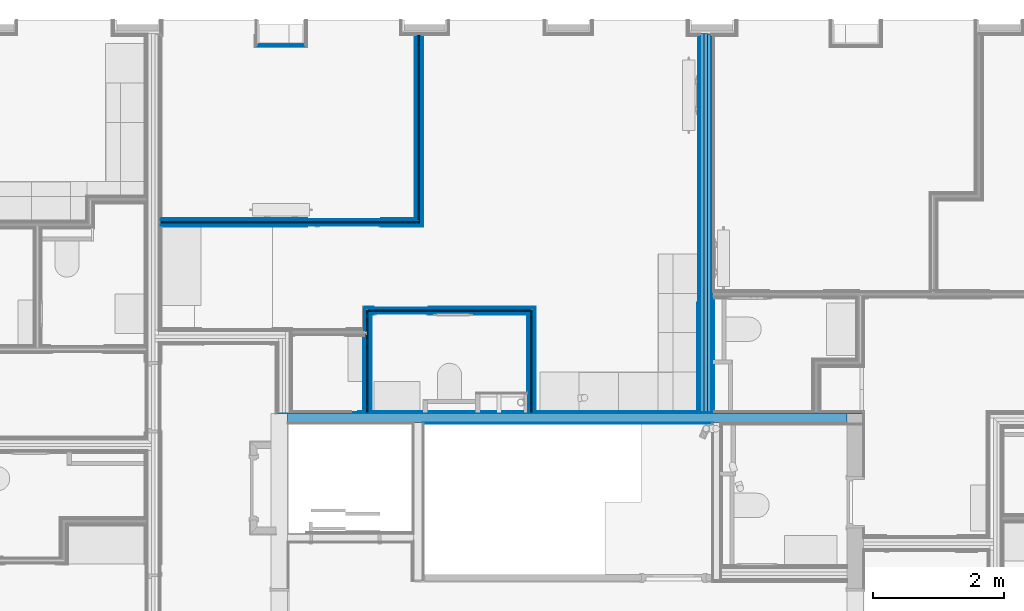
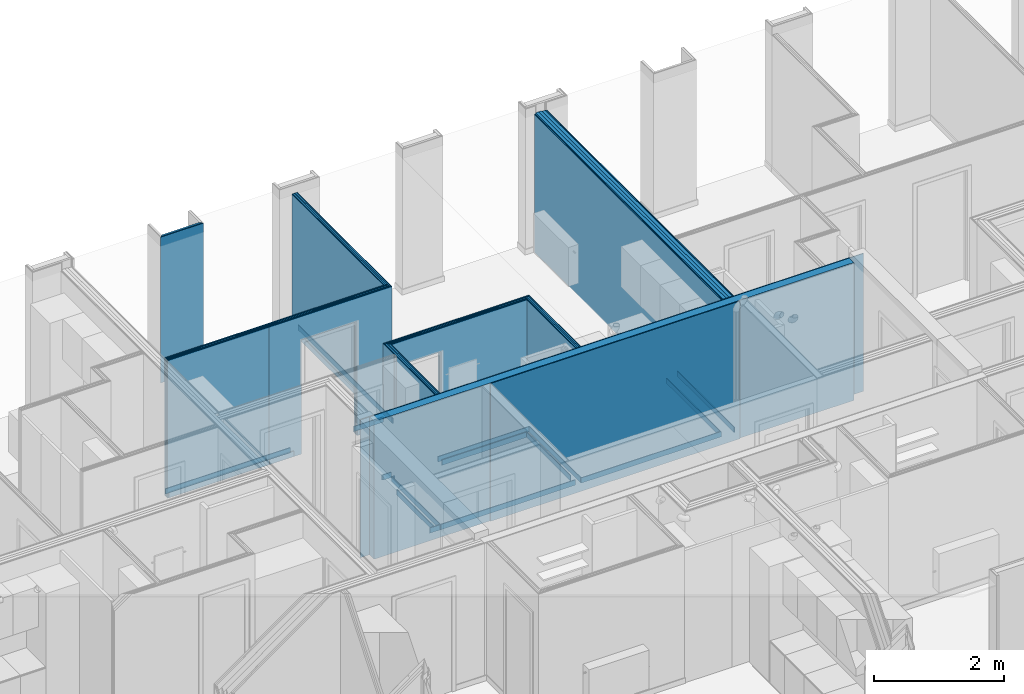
# One storey, part 17 of 82: 59 building element parts, 2 openings, 9 elements without a shape of their own.
"""IFC2X3 building model written with IfcOpenShell, lengths in metres."""

from ifc_helpers import new_model, entity, si_unit, converted_unit, derived_unit, money_unit, direction, frame, frame_2d, origin_with_axes, place, context, subcontext, project, spatial, polyline, rectangle, outline, extrude, material, type_object, element, aggregate, save


model = new_model("IFC2X3")

# Units and contexts
model_context = context("Model", 3, precision=1e-05, world=origin_with_axes(), true_north=direction((0.0, 1.0)))
body_context = subcontext(model_context, "Body", "Model", "MODEL_VIEW", scale=1.0)
ifc_project = project(units=[si_unit("LENGTHUNIT", "METRE"), si_unit("AREAUNIT", "SQUARE_METRE"), si_unit("VOLUMEUNIT", "CUBIC_METRE"), si_unit("ABSORBEDDOSEUNIT", "GRAY"), si_unit("AMOUNTOFSUBSTANCEUNIT", "MOLE"), si_unit("DOSEEQUIVALENTUNIT", "SIEVERT"), si_unit("ELECTRICCAPACITANCEUNIT", "FARAD"), si_unit("ELECTRICCHARGEUNIT", "COULOMB"), si_unit("ELECTRICCONDUCTANCEUNIT", "SIEMENS"), si_unit("ELECTRICCURRENTUNIT", "AMPERE"), si_unit("ELECTRICRESISTANCEUNIT", "OHM"), si_unit("ELECTRICVOLTAGEUNIT", "VOLT"), si_unit("ENERGYUNIT", "JOULE"), si_unit("FORCEUNIT", "NEWTON"), si_unit("FREQUENCYUNIT", "HERTZ"), si_unit("ILLUMINANCEUNIT", "LUX"), si_unit("INDUCTANCEUNIT", "HENRY"), si_unit("LUMINOUSFLUXUNIT", "LUMEN"), si_unit("LUMINOUSINTENSITYUNIT", "CANDELA"), si_unit("MAGNETICFLUXDENSITYUNIT", "TESLA"), si_unit("MAGNETICFLUXUNIT", "WEBER"), si_unit("MASSUNIT", "GRAM"), converted_unit("PLANEANGLEUNIT", "degree", entity("IfcReal", 0.0174532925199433), si_unit("PLANEANGLEUNIT", "RADIAN"), dimensions=[0, 0, 0, 0, 0, 0, 0]), si_unit("POWERUNIT", "WATT"), si_unit("PRESSUREUNIT", "PASCAL"), si_unit("RADIOACTIVITYUNIT", "BECQUEREL"), si_unit("SOLIDANGLEUNIT", "STERADIAN"), si_unit("THERMODYNAMICTEMPERATUREUNIT", "KELVIN"), si_unit("TIMEUNIT", "SECOND"), derived_unit("ACCELERATIONUNIT", [(si_unit("LENGTHUNIT", "METRE"), 1), (si_unit("TIMEUNIT", "SECOND"), -2)]), derived_unit("ANGULARVELOCITYUNIT", [(converted_unit("PLANEANGLEUNIT", "degree", entity("IfcReal", 0.0174532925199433), si_unit("PLANEANGLEUNIT", "RADIAN"), dimensions=[0, 0, 0, 0, 0, 0, 0]), 1), (si_unit("TIMEUNIT", "SECOND"), -1)]), derived_unit("CURVATUREUNIT", [(converted_unit("PLANEANGLEUNIT", "degree", entity("IfcReal", 0.0174532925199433), si_unit("PLANEANGLEUNIT", "RADIAN"), dimensions=[0, 0, 0, 0, 0, 0, 0]), 1), (si_unit("LENGTHUNIT", "METRE"), -1)]), derived_unit("DYNAMICVISCOSITYUNIT", [(si_unit("PRESSUREUNIT", "PASCAL"), 1), (si_unit("TIMEUNIT", "SECOND"), 1)]), derived_unit("HEATFLUXDENSITYUNIT", [(si_unit("POWERUNIT", "WATT"), 1), (si_unit("LENGTHUNIT", "METRE"), -2)]), derived_unit("HEATINGVALUEUNIT", [(si_unit("ENERGYUNIT", "JOULE"), 1), (si_unit("MASSUNIT", "GRAM"), -1)]), derived_unit("INTEGERCOUNTRATEUNIT", [(si_unit("TIMEUNIT", "SECOND"), -1)]), derived_unit("IONCONCENTRATIONUNIT", [(si_unit("MASSUNIT", "GRAM"), 1), (si_unit("VOLUMEUNIT", "CUBIC_METRE"), -1)]), derived_unit("ISOTHERMALMOISTURECAPACITYUNIT", [(si_unit("VOLUMEUNIT", "CUBIC_METRE"), 1), (si_unit("MASSUNIT", "GRAM"), -1)]), derived_unit("KINEMATICVISCOSITYUNIT", [(si_unit("AREAUNIT", "SQUARE_METRE"), 1), (si_unit("TIMEUNIT", "SECOND"), -1)]), derived_unit("LINEARFORCEUNIT", [(si_unit("FORCEUNIT", "NEWTON"), 1), (si_unit("LENGTHUNIT", "METRE"), -1)]), derived_unit("LINEARMOMENTUNIT", [(si_unit("FORCEUNIT", "NEWTON"), 1), (si_unit("LENGTHUNIT", "METRE"), -1)]), derived_unit("LINEARSTIFFNESSUNIT", [(si_unit("FORCEUNIT", "NEWTON"), 1), (si_unit("LENGTHUNIT", "METRE"), -1)]), derived_unit("LINEARVELOCITYUNIT", [(si_unit("LENGTHUNIT", "METRE"), 1), (si_unit("TIMEUNIT", "SECOND"), -1)]), derived_unit("LUMINOUSINTENSITYDISTRIBUTIONUNIT", [(si_unit("LUMINOUSINTENSITYUNIT", "CANDELA"), 1), (si_unit("LUMINOUSFLUXUNIT", "LUMEN"), -1)]), derived_unit("MASSDENSITYUNIT", [(si_unit("MASSUNIT", "GRAM"), 1), (si_unit("VOLUMEUNIT", "CUBIC_METRE"), -1)]), derived_unit("MASSFLOWRATEUNIT", [(si_unit("MASSUNIT", "GRAM"), 1), (si_unit("TIMEUNIT", "SECOND"), -1)]), derived_unit("MASSPERLENGTHUNIT", [(si_unit("MASSUNIT", "GRAM"), 1), (si_unit("LENGTHUNIT", "METRE"), -1)]), derived_unit("MODULUSOFELASTICITYUNIT", [(si_unit("FORCEUNIT", "NEWTON"), 1), (si_unit("AREAUNIT", "SQUARE_METRE"), -1)]), derived_unit("MODULUSOFLINEARSUBGRADEREACTIONUNIT", [(si_unit("FORCEUNIT", "NEWTON"), 1), (si_unit("LENGTHUNIT", "METRE"), -2)]), derived_unit("MODULUSOFROTATIONALSUBGRADEREACTIONUNIT", [(si_unit("FORCEUNIT", "NEWTON"), 1), (si_unit("LENGTHUNIT", "METRE"), 1)]), derived_unit("MODULUSOFSUBGRADEREACTIONUNIT", [(si_unit("FORCEUNIT", "NEWTON"), 1), (si_unit("VOLUMEUNIT", "CUBIC_METRE"), -1)]), derived_unit("MOISTUREDIFFUSIVITYUNIT", [(si_unit("VOLUMEUNIT", "CUBIC_METRE"), 1), (si_unit("TIMEUNIT", "SECOND"), -1)]), derived_unit("MOLECULARWEIGHTUNIT", [(si_unit("MASSUNIT", "GRAM"), 1), (si_unit("AMOUNTOFSUBSTANCEUNIT", "MOLE"), -1)]), derived_unit("PLANARFORCEUNIT", [(si_unit("FORCEUNIT", "NEWTON"), 1), (si_unit("LENGTHUNIT", "METRE"), -2)]), derived_unit("ROTATIONALFREQUENCYUNIT", [(si_unit("TIMEUNIT", "SECOND"), -1)]), derived_unit("ROTATIONALMASSUNIT", [(si_unit("MASSUNIT", "GRAM"), 1), (si_unit("LENGTHUNIT", "METRE"), 2)]), derived_unit("ROTATIONALSTIFFNESSUNIT", [(si_unit("FORCEUNIT", "NEWTON"), 1), (si_unit("LENGTHUNIT", "METRE"), 1), (converted_unit("PLANEANGLEUNIT", "degree", entity("IfcReal", 0.0174532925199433), si_unit("PLANEANGLEUNIT", "RADIAN"), dimensions=[0, 0, 0, 0, 0, 0, 0]), -1)]), derived_unit("SECTIONAREAINTEGRALUNIT", [(si_unit("LENGTHUNIT", "METRE"), 5)]), derived_unit("SECTIONMODULUSUNIT", [(si_unit("LENGTHUNIT", "METRE"), 3)]), derived_unit("SHEARMODULUSUNIT", [(si_unit("FORCEUNIT", "NEWTON"), 1), (si_unit("AREAUNIT", "SQUARE_METRE"), -1)]), derived_unit("SOUNDPOWERUNIT", [(si_unit("ENERGYUNIT", "JOULE"), 1), (si_unit("TIMEUNIT", "SECOND"), -1)]), derived_unit("SPECIFICHEATCAPACITYUNIT", [(si_unit("FORCEUNIT", "NEWTON"), 1), (si_unit("MASSUNIT", "GRAM"), -1), (si_unit("THERMODYNAMICTEMPERATUREUNIT", "KELVIN"), -1)]), derived_unit("TEMPERATUREGRADIENTUNIT", [(si_unit("THERMODYNAMICTEMPERATUREUNIT", "KELVIN"), 1), (si_unit("LENGTHUNIT", "METRE"), -1)]), derived_unit("THERMALADMITTANCEUNIT", [(si_unit("POWERUNIT", "WATT"), 1), (si_unit("AREAUNIT", "SQUARE_METRE"), -1), (si_unit("THERMODYNAMICTEMPERATUREUNIT", "KELVIN"), -1)]), derived_unit("THERMALCONDUCTANCEUNIT", [(si_unit("POWERUNIT", "WATT"), 1), (si_unit("LENGTHUNIT", "METRE"), -1), (si_unit("THERMODYNAMICTEMPERATUREUNIT", "KELVIN"), -1)]), derived_unit("THERMALEXPANSIONCOEFFICIENTUNIT", [(si_unit("THERMODYNAMICTEMPERATUREUNIT", "KELVIN"), -1)]), derived_unit("THERMALRESISTANCEUNIT", [(si_unit("AREAUNIT", "SQUARE_METRE"), 1), (si_unit("POWERUNIT", "WATT"), -1)]), derived_unit("THERMALTRANSMITTANCEUNIT", [(si_unit("POWERUNIT", "WATT"), 1), (si_unit("AREAUNIT", "SQUARE_METRE"), -1), (si_unit("THERMODYNAMICTEMPERATUREUNIT", "KELVIN"), -1)]), derived_unit("TORQUEUNIT", [(si_unit("FORCEUNIT", "NEWTON"), 1), (si_unit("LENGTHUNIT", "METRE"), 1)]), derived_unit("VAPORPERMEABILITYUNIT", [(si_unit("MASSUNIT", "GRAM"), 1), (si_unit("TIMEUNIT", "SECOND"), -1)]), derived_unit("VOLUMETRICFLOWRATEUNIT", [(si_unit("VOLUMEUNIT", "CUBIC_METRE"), 1), (si_unit("TIMEUNIT", "SECOND"), -1)]), derived_unit("WARPINGCONSTANTUNIT", [(si_unit("LENGTHUNIT", "METRE"), 6)]), derived_unit("WARPINGMOMENTUNIT", [(si_unit("FORCEUNIT", "NEWTON"), 1), (si_unit("LENGTHUNIT", "METRE"), 2)]), money_unit("GBP")], contexts=[model_context])

# Site, building, storey
site_placement = place(None, origin_with_axes())
site = spatial("IfcSite", under=ifc_project, at=site_placement, Name="Site", CompositionType="ELEMENT")
building_placement = place(site_placement, origin_with_axes())
building = spatial("IfcBuilding", under=site, at=building_placement, Name="Building01", CompositionType="ELEMENT")
storey_placement = place(building_placement, frame((0.0, 0.0, 12.13), z_axis=(0.0, 0.0, 1.0), x_axis=(1.0, 0.0, 0.0)))
storey = spatial("IfcBuildingStorey", under=building, at=storey_placement, Name="3F", CompositionType="ELEMENT", Elevation=12.13)

# Wall, building element parts
wall_type_1 = type_object("IfcWallType", Name="SHE_A-Walls_Type06d_ExternalWallInsulation_48mm", PredefinedType="NOTDEFINED")
wall_1_placement = place(storey_placement, frame((9.46, 14.45, 0.0), z_axis=(0.0, 0.0, 1.0), x_axis=(-1.0, 0.0, 0.0)))
wall_1 = element("IfcWall", 1, at=wall_1_placement, inside=storey, type_object=wall_type_1, Name="6D", ObjectType="SHE_A-Walls_Type06d_ExternalWallInsulation_48mm")
ifc_material_1 = material(Name="A_BSUK_Insulation")
placement_1 = place(wall_1_placement, origin_with_axes())
building_element_part_1 = element("IfcBuildingElementPart", 2, at=placement_1, material=ifc_material_1, Name="1", context=body_context, shape_type="SweptSolid", body=[
    extrude(outline(polyline([(0.706, 0.036), (-0.036, 0.036), (0.0, 0.0), (0.67, 0.0), (0.706, 0.036)])), origin_with_axes(), (0.0, 0.0, 1.0), 2.74),
])
ifc_material_2 = material(Name="A_BSUK_WallInternal_Finishes_Plasterboard")
building_element_part_2 = element("IfcBuildingElementPart", 3, at=placement_1, material=ifc_material_2, Name="2", context=body_context, shape_type="SweptSolid", body=[
    extrude(outline(polyline([(0.718, 0.048), (-0.048, 0.048), (-0.035, 0.035), (0.705, 0.035), (0.718, 0.048)])), origin_with_axes(), (0.0, 0.0, 1.0), 2.74),
])
aggregate(wall_1, [building_element_part_1, building_element_part_2])

# Wall, opening, building element parts
wall_type_2 = type_object("IfcWallType", Name="SHE_A-Walls_Type05a_Partition_95mm_tall", PredefinedType="NOTDEFINED")
wall_2_placement = place(storey_placement, frame((10.453871, 10.355, 0.0), z_axis=(0.0, 0.0, 1.0), x_axis=(1.0, 0.0, 0.0)))
wall_2 = element("IfcWall", 4, at=wall_2_placement, inside=storey, type_object=wall_type_2, Name="5A", ObjectType="SHE_A-Walls_Type05a_Partition_95mm_tall")
opening_1_placement = place(wall_2_placement, frame((0.086065, -0.05, 0.0), z_axis=(0.0, 0.0, 1.0), x_axis=(1.0, 0.0, 0.0)))
element("IfcOpeningElement", 5, at=opening_1_placement, cuts=wall_2, Name="Opening", ObjectType="Opening", context=body_context, shape_type="SweptSolid", body=[
    extrude(rectangle(XDim=0.834, YDim=2.142, at=frame_2d((-0.417, 1.071), x_axis=(1.0, 0.0))), frame((0.0, 0.0, 0.0), z_axis=(0.0, 1.0, 0.0), x_axis=(-1.0, 0.0, 0.0)), (0.0, 0.0, 1.0), 0.125),
])
ifc_material_3 = material(Name="A_BSUK_Walls_Timber")
placement_2 = place(wall_2_placement, origin_with_axes())
building_element_part_3 = element("IfcBuildingElementPart", 6, at=placement_2, material=ifc_material_3, Name="1", context=body_context, shape_type="SweptSolid", body=[
    extrude(outline(polyline([(2.439714, -0.035), (0.035, -0.035), (0.05, -0.05), (2.424714, -0.05), (2.439714, -0.035)])), frame((0.0, 0.0, 0.015), z_axis=(0.0, 0.0, 1.0), x_axis=(1.0, 0.0, 0.0)), (0.0, 0.0, 1.0), 0.1),
])
building_element_part_4 = element("IfcBuildingElementPart", 7, at=placement_2, material=ifc_material_2, Name="2", context=body_context, shape_type="SweptSolid", body=[
    extrude(outline(polyline([(2.451714, -0.023), (0.023, -0.023), (0.035, -0.035), (2.439714, -0.035), (2.451714, -0.023)])), origin_with_axes(), (0.0, 0.0, 1.0), 2.59),
])
ifc_material_4 = material(Name="Air Cavity")
building_element_part_5 = element("IfcBuildingElementPart", 8, at=placement_2, material=ifc_material_4, Name="3", context=body_context, shape_type="SweptSolid", body=[
    extrude(outline(polyline([(2.474714, 0.0), (0.0, 0.0), (0.023, -0.023), (2.451714, -0.023), (2.474714, 0.0)])), origin_with_axes(), (0.0, 0.0, 1.0), 2.59),
])
building_element_part_6 = element("IfcBuildingElementPart", 9, at=placement_2, material=ifc_material_1, Name="4", context=body_context, shape_type="SweptSolid", body=[
    extrude(rectangle(XDim=2.474714, YDim=0.025, at=frame_2d((1.237357, 0.0125), x_axis=(-1.0, 0.0))), origin_with_axes(), (0.0, 0.0, 1.0), 2.59),
])
building_element_part_7 = element("IfcBuildingElementPart", 10, at=placement_2, material=ifc_material_4, Name="5", context=body_context, shape_type="SweptSolid", body=[
    extrude(rectangle(XDim=2.474714, YDim=0.023, at=frame_2d((1.237357, 0.0365), x_axis=(-1.0, 0.0))), origin_with_axes(), (0.0, 0.0, 1.0), 2.59),
])
building_element_part_8 = element("IfcBuildingElementPart", 11, at=placement_2, material=ifc_material_2, Name="6", context=body_context, shape_type="SweptSolid", body=[
    extrude(outline(polyline([(2.534714, 0.06), (-0.06, 0.06), (-0.048, 0.048), (2.522714, 0.048), (2.534714, 0.06)])), origin_with_axes(), (0.0, 0.0, 1.0), 2.59),
])
building_element_part_9 = element("IfcBuildingElementPart", 12, at=placement_2, material=ifc_material_3, Name="7", context=body_context, shape_type="SweptSolid", body=[
    extrude(outline(polyline([(2.549714, 0.075), (-0.075, 0.075), (-0.06, 0.06), (2.534714, 0.06), (2.549714, 0.075)])), frame((0.0, 0.0, 0.015), z_axis=(0.0, 0.0, 1.0), x_axis=(1.0, 0.0, 0.0)), (0.0, 0.0, 1.0), 0.1),
])
aggregate(wall_2, [building_element_part_3, building_element_part_4, building_element_part_5, building_element_part_6, building_element_part_7, building_element_part_8, building_element_part_9])

# Wall, building element parts
wall_3_placement = place(storey_placement, frame((12.928585, 10.38, 0.0), z_axis=(0.0, 0.0, 1.0), x_axis=(0.0, -1.0, 0.0)))
wall_3 = element("IfcWall", 13, at=wall_3_placement, inside=storey, type_object=wall_type_2, Name="5A", ObjectType="SHE_A-Walls_Type05a_Partition_95mm_tall")
placement_3 = place(wall_3_placement, origin_with_axes())
building_element_part_10 = element("IfcBuildingElementPart", 14, at=placement_3, material=ifc_material_3, Name="1", context=body_context, shape_type="SweptSolid", body=[
    extrude(outline(polyline([(1.426872, -0.035), (0.06, -0.035), (0.075, -0.05), (1.426872, -0.05), (1.426872, -0.035)])), frame((0.0, 0.0, 0.015), z_axis=(0.0, 0.0, 1.0), x_axis=(1.0, 0.0, 0.0)), (0.0, 0.0, 1.0), 0.1),
])
building_element_part_11 = element("IfcBuildingElementPart", 15, at=placement_3, material=ifc_material_2, Name="2", context=body_context, shape_type="SweptSolid", body=[
    extrude(outline(polyline([(1.56, -0.023), (0.048, -0.023), (0.06, -0.035), (1.56, -0.035), (1.56, -0.023)])), origin_with_axes(), (0.0, 0.0, 1.0), 2.59),
])
building_element_part_12 = element("IfcBuildingElementPart", 16, at=placement_3, material=ifc_material_4, Name="3", context=body_context, shape_type="SweptSolid", body=[
    extrude(outline(polyline([(1.56, 0.0), (0.025, 0.0), (0.048, -0.023), (1.56, -0.023), (1.56, 0.0)])), origin_with_axes(), (0.0, 0.0, 1.0), 2.59),
])
building_element_part_13 = element("IfcBuildingElementPart", 17, at=placement_3, material=ifc_material_1, Name="4", context=body_context, shape_type="SweptSolid", body=[
    extrude(rectangle(XDim=1.56, YDim=0.025, at=frame_2d((0.78, 0.0125), x_axis=(-1.0, 0.0))), origin_with_axes(), (0.0, 0.0, 1.0), 2.59),
])
building_element_part_14 = element("IfcBuildingElementPart", 18, at=placement_3, material=ifc_material_4, Name="5", context=body_context, shape_type="SweptSolid", body=[
    extrude(rectangle(XDim=1.56, YDim=0.023, at=frame_2d((0.78, 0.0365), x_axis=(-1.0, 0.0))), origin_with_axes(), (0.0, 0.0, 1.0), 2.59),
])
building_element_part_15 = element("IfcBuildingElementPart", 19, at=placement_3, material=ifc_material_2, Name="6", context=body_context, shape_type="SweptSolid", body=[
    extrude(outline(polyline([(1.56, 0.06), (-0.035, 0.06), (-0.023, 0.048), (1.56, 0.048), (1.56, 0.06)])), origin_with_axes(), (0.0, 0.0, 1.0), 2.59),
])
building_element_part_16 = element("IfcBuildingElementPart", 20, at=placement_3, material=ifc_material_3, Name="7", context=body_context, shape_type="SweptSolid", body=[
    extrude(outline(polyline([(1.545, 0.075), (-0.05, 0.075), (-0.035, 0.06), (1.545, 0.06), (1.545, 0.075)])), frame((0.0, 0.0, 0.015), z_axis=(0.0, 0.0, 1.0), x_axis=(1.0, 0.0, 0.0)), (0.0, 0.0, 1.0), 0.1),
])
aggregate(wall_3, [building_element_part_10, building_element_part_11, building_element_part_12, building_element_part_13, building_element_part_14, building_element_part_15, building_element_part_16])

wall_type_3 = type_object("IfcWallType", Name="SHE_A-Walls_Type01c_Partywall_225mm_twin_tall", PredefinedType="NOTDEFINED")
wall_4_placement = place(storey_placement, frame((15.620132, 8.82, 0.0), z_axis=(0.0, 0.0, 1.0), x_axis=(0.0, 1.0, 0.0)))
wall_4 = element("IfcWall", 21, at=wall_4_placement, inside=storey, type_object=wall_type_3, Name="1C", ObjectType="SHE_A-Walls_Type01c_Partywall_225mm_twin_tall")
placement_4 = place(wall_4_placement, origin_with_axes())
building_element_part_17 = element("IfcBuildingElementPart", 22, at=placement_4, material=ifc_material_3, Name="1", context=body_context, shape_type="SweptSolid", body=[
    extrude(rectangle(XDim=1.75, YDim=0.015, at=frame_2d((0.875, -0.0955), x_axis=(-1.0, 0.0))), frame((0.0, 0.0, 0.015), z_axis=(0.0, 0.0, 1.0), x_axis=(1.0, 0.0, 0.0)), (0.0, 0.0, 1.0), 0.1),
])
building_element_part_18 = element("IfcBuildingElementPart", 23, at=placement_4, material=ifc_material_2, Name="3", context=body_context, shape_type="SweptSolid", body=[
    extrude(rectangle(XDim=5.747, YDim=0.015, at=frame_2d((2.8735, -0.0805), x_axis=(-1.0, 0.0))), origin_with_axes(), (0.0, 0.0, 1.0), 2.59),
])
building_element_part_19 = element("IfcBuildingElementPart", 24, at=placement_4, material=ifc_material_2, Name="4", context=body_context, shape_type="SweptSolid", body=[
    extrude(rectangle(XDim=5.762, YDim=0.015, at=frame_2d((2.881, -0.0655), x_axis=(-1.0, 0.0))), origin_with_axes(), (0.0, 0.0, 1.0), 2.59),
])
building_element_part_20 = element("IfcBuildingElementPart", 25, at=placement_4, material=ifc_material_4, Name="5", context=body_context, shape_type="SweptSolid", body=[
    extrude(rectangle(XDim=5.762, YDim=0.058, at=frame_2d((2.881, -0.029), x_axis=(-1.0, 0.0))), origin_with_axes(), (0.0, 0.0, 1.0), 2.59),
])
building_element_part_21 = element("IfcBuildingElementPart", 26, at=placement_4, material=ifc_material_1, Name="6", context=body_context, shape_type="SweptSolid", body=[
    extrude(rectangle(XDim=5.774, YDim=0.05, at=frame_2d((2.887, 0.025), x_axis=(-1.0, 0.0))), origin_with_axes(), (0.0, 0.0, 1.0), 2.59),
])
building_element_part_22 = element("IfcBuildingElementPart", 27, at=placement_4, material=ifc_material_4, Name="7", context=body_context, shape_type="SweptSolid", body=[
    extrude(rectangle(XDim=5.774, YDim=0.057, at=frame_2d((2.887, 0.0785), x_axis=(-1.0, 0.0))), origin_with_axes(), (0.0, 0.0, 1.0), 2.59),
])
building_element_part_23 = element("IfcBuildingElementPart", 28, at=placement_4, material=ifc_material_2, Name="8", context=body_context, shape_type="SweptSolid", body=[
    extrude(rectangle(XDim=5.762, YDim=0.015, at=frame_2d((2.881, 0.1145), x_axis=(-1.0, 0.0))), origin_with_axes(), (0.0, 0.0, 1.0), 2.59),
])
building_element_part_24 = element("IfcBuildingElementPart", 29, at=placement_4, material=ifc_material_2, Name="9", context=body_context, shape_type="SweptSolid", body=[
    extrude(rectangle(XDim=5.747, YDim=0.015, at=frame_2d((2.8735, 0.1295), x_axis=(-1.0, 0.0))), origin_with_axes(), (0.0, 0.0, 1.0), 2.59),
])
building_element_part_25 = element("IfcBuildingElementPart", 30, at=placement_4, material=ifc_material_3, Name="10", context=body_context, shape_type="SweptSolid", body=[
    extrude(outline(polyline([(1.671912, 0.152), (0.015, 0.152), (0.015, 0.137), (1.656912, 0.137), (1.671912, 0.152)])), frame((0.0, 0.0, 0.015), z_axis=(0.0, 0.0, 1.0), x_axis=(1.0, 0.0, 0.0)), (0.0, 0.0, 1.0), 0.1),
])
aggregate(wall_4, [building_element_part_17, building_element_part_18, building_element_part_19, building_element_part_20, building_element_part_21, building_element_part_22, building_element_part_23, building_element_part_24, building_element_part_25])

wall_5_placement = place(storey_placement, frame((9.09, 11.703124, 0.0), z_axis=(0.0, 0.0, 1.0), x_axis=(-1.0, 0.0, 0.0)))
wall_5 = element("IfcWall", 31, at=wall_5_placement, inside=storey, type_object=wall_type_2, Name="5A", ObjectType="SHE_A-Walls_Type05a_Partition_95mm_tall")
placement_5 = place(wall_5_placement, origin_with_axes())
building_element_part_26 = element("IfcBuildingElementPart", 32, at=placement_5, material=ifc_material_3, Name="1", context=body_context, shape_type="SweptSolid", body=[
    extrude(rectangle(XDim=1.785331, YDim=0.015, at=frame_2d((0.892666, -0.0675), x_axis=(-1.0, 0.0))), frame((0.0, 0.0, 0.015), z_axis=(0.0, 0.0, 1.0), x_axis=(1.0, 0.0, 0.0)), (0.0, 0.0, 1.0), 0.1),
])
building_element_part_27 = element("IfcBuildingElementPart", 33, at=placement_5, material=ifc_material_2, Name="2", context=body_context, shape_type="SweptSolid", body=[
    extrude(rectangle(XDim=1.800331, YDim=0.012, at=frame_2d((0.900166, -0.054), x_axis=(1.0, 0.0))), origin_with_axes(), (0.0, 0.0, 1.0), 2.59),
])
building_element_part_28 = element("IfcBuildingElementPart", 34, at=placement_5, material=ifc_material_4, Name="3", context=body_context, shape_type="SweptSolid", body=[
    extrude(rectangle(XDim=1.800331, YDim=0.023, at=frame_2d((0.900166, -0.0365), x_axis=(1.0, 0.0))), origin_with_axes(), (0.0, 0.0, 1.0), 2.59),
])
building_element_part_29 = element("IfcBuildingElementPart", 35, at=placement_5, material=ifc_material_1, Name="4", context=body_context, shape_type="SweptSolid", body=[
    extrude(rectangle(XDim=1.800331, YDim=0.025, at=frame_2d((0.900166, -0.0125), x_axis=(1.0, 0.0))), origin_with_axes(), (0.0, 0.0, 1.0), 2.59),
])
building_element_part_30 = element("IfcBuildingElementPart", 36, at=placement_5, material=ifc_material_4, Name="5", context=body_context, shape_type="SweptSolid", body=[
    extrude(rectangle(XDim=1.800331, YDim=0.023, at=frame_2d((0.900166, 0.0115), x_axis=(1.0, 0.0))), origin_with_axes(), (0.0, 0.0, 1.0), 2.59),
])
building_element_part_31 = element("IfcBuildingElementPart", 37, at=placement_5, material=ifc_material_2, Name="6", context=body_context, shape_type="SweptSolid", body=[
    extrude(rectangle(XDim=1.800331, YDim=0.012, at=frame_2d((0.900166, 0.029), x_axis=(1.0, 0.0))), origin_with_axes(), (0.0, 0.0, 1.0), 2.59),
])
building_element_part_32 = element("IfcBuildingElementPart", 38, at=placement_5, material=ifc_material_3, Name="7", context=body_context, shape_type="SweptSolid", body=[
    extrude(rectangle(XDim=1.785331, YDim=0.015, at=frame_2d((0.892666, 0.0425), x_axis=(-1.0, 0.0))), frame((0.0, 0.0, 0.015), z_axis=(0.0, 0.0, 1.0), x_axis=(1.0, 0.0, 0.0)), (0.0, 0.0, 1.0), 0.1),
])
aggregate(wall_5, [building_element_part_26, building_element_part_27, building_element_part_28, building_element_part_29, building_element_part_30, building_element_part_31, building_element_part_32])

# Wall, opening, building element parts
wall_6_placement = place(storey_placement, frame((9.09, 11.703124, 0.0), z_axis=(0.0, 0.0, 1.0), x_axis=(1.0, 0.0, 0.0)))
wall_6 = element("IfcWall", 39, at=wall_6_placement, inside=storey, type_object=wall_type_2, Name="5A", ObjectType="SHE_A-Walls_Type05a_Partition_95mm_tall")
opening_2_placement = place(wall_6_placement, frame((0.579, -0.05, -0.015), z_axis=(0.0, 0.0, 1.0), x_axis=(1.0, 0.0, 0.0)))
element("IfcOpeningElement", 40, at=opening_2_placement, cuts=wall_6, Name="Opening", ObjectType="Opening", context=body_context, shape_type="SweptSolid", body=[
    extrude(outline(polyline([(-0.042, 0.0), (-0.042, 0.015), (0.0, 0.015), (0.0, 2.157), (-0.984, 2.157), (-0.984, 0.015), (-0.840883, 0.015), (-0.840883, 0.0), (-0.042, 0.0)])), frame((0.0, 0.0, 0.0), z_axis=(0.0, 1.0, 0.0), x_axis=(-1.0, 0.0, 0.0)), (0.0, 0.0, 1.0), 0.125),
    extrude(outline(polyline([(-0.942, 0.015), (-0.942, 0.0), (-0.042, 0.0), (-0.042, 0.015), (0.0, 0.015), (0.0, 2.157), (-0.984, 2.157), (-0.984, 0.015), (-0.942, 0.015)])), frame((0.0, 0.015, 0.0), z_axis=(0.0, 1.0, 0.0), x_axis=(-1.0, 0.0, 0.0)), (0.0, 0.0, 1.0), 0.012),
    extrude(outline(polyline([(0.0, 2.142), (0.0, 2.157), (-0.984, 2.157), (-0.984, 0.015), (-0.840883, 0.015), (-0.840883, 0.0), (0.143117, 0.0), (0.143117, 2.142), (0.0, 2.142)])), frame((0.0, 0.0, 0.0), z_axis=(0.0, 1.0, 0.0), x_axis=(-1.0, 0.0, 0.0)), (0.0, 0.0, 1.0), 0.015),
    extrude(outline(polyline([(-0.942, 0.015), (-0.942, 0.0), (-0.042, 0.0), (-0.042, 0.015), (0.0, 0.015), (0.0, 2.157), (-0.984, 2.157), (-0.984, 0.015), (-0.942, 0.015)])), frame((0.0, 0.027, 0.0), z_axis=(0.0, 1.0, 0.0), x_axis=(-1.0, 0.0, 0.0)), (0.0, 0.0, 1.0), 0.023),
    extrude(outline(polyline([(-0.942, 0.015), (-0.942, 0.0), (-0.042, 0.0), (-0.042, 0.015), (0.0, 0.015), (0.0, 2.157), (-0.984, 2.157), (-0.984, 0.015), (-0.942, 0.015)])), frame((0.0, 0.05, 0.0), z_axis=(0.0, 1.0, 0.0), x_axis=(-1.0, 0.0, 0.0)), (0.0, 0.0, 1.0), 0.025),
    extrude(outline(polyline([(-0.942, 0.015), (-0.942, 0.0), (-0.042, 0.0), (-0.042, 0.015), (0.0, 0.015), (0.0, 2.157), (-0.984, 2.157), (-0.984, 0.015), (-0.942, 0.015)])), frame((0.0, 0.075, 0.0), z_axis=(0.0, 1.0, 0.0), x_axis=(-1.0, 0.0, 0.0)), (0.0, 0.0, 1.0), 0.023),
    extrude(outline(polyline([(-0.942, 0.015), (-0.942, 0.0), (-0.042, 0.0), (-0.042, 0.015), (0.0, 0.015), (0.0, 2.157), (-0.984, 2.157), (-0.984, 0.015), (-0.942, 0.015)])), frame((0.0, 0.098, 0.0), z_axis=(0.0, 1.0, 0.0), x_axis=(-1.0, 0.0, 0.0)), (0.0, 0.0, 1.0), 0.012),
    extrude(outline(polyline([(-0.840883, 0.015), (-0.840883, 0.0), (0.143117, 0.0), (0.143117, 2.142), (0.0, 2.142), (0.0, 2.157), (-0.984, 2.157), (-0.984, 0.015), (-0.840883, 0.015)])), frame((0.0, 0.11, 0.0), z_axis=(0.0, 1.0, 0.0), x_axis=(-1.0, 0.0, 0.0)), (0.0, 0.0, 1.0), 0.015),
])
placement_6 = place(wall_6_placement, origin_with_axes())
building_element_part_33 = element("IfcBuildingElementPart", 41, at=placement_6, material=ifc_material_3, Name="1", context=body_context, shape_type="SweptSolid", body=[
    extrude(outline(polyline([(2.185, -0.035), (0.0, -0.035), (0.0, -0.05), (2.2, -0.05), (2.185, -0.035)])), frame((0.0, 0.0, 0.015), z_axis=(0.0, 0.0, 1.0), x_axis=(1.0, 0.0, 0.0)), (0.0, 0.0, 1.0), 0.1),
])
building_element_part_34 = element("IfcBuildingElementPart", 42, at=placement_6, material=ifc_material_2, Name="2", context=body_context, shape_type="SweptSolid", body=[
    extrude(outline(polyline([(2.173, -0.023), (0.0, -0.023), (0.0, -0.035), (2.185, -0.035), (2.173, -0.023)])), origin_with_axes(), (0.0, 0.0, 1.0), 2.59),
])
building_element_part_35 = element("IfcBuildingElementPart", 43, at=placement_6, material=ifc_material_4, Name="3", context=body_context, shape_type="SweptSolid", body=[
    extrude(outline(polyline([(2.15, 0.0), (0.0, 0.0), (0.0, -0.023), (2.173, -0.023), (2.15, 0.0)])), origin_with_axes(), (0.0, 0.0, 1.0), 2.59),
])
building_element_part_36 = element("IfcBuildingElementPart", 44, at=placement_6, material=ifc_material_1, Name="4", context=body_context, shape_type="SweptSolid", body=[
    extrude(rectangle(XDim=2.15, YDim=0.025, at=frame_2d((1.075, 0.0125), x_axis=(-1.0, 0.0))), origin_with_axes(), (0.0, 0.0, 1.0), 2.59),
])
building_element_part_37 = element("IfcBuildingElementPart", 45, at=placement_6, material=ifc_material_4, Name="5", context=body_context, shape_type="SweptSolid", body=[
    extrude(rectangle(XDim=2.15, YDim=0.023, at=frame_2d((1.075, 0.0365), x_axis=(-1.0, 0.0))), origin_with_axes(), (0.0, 0.0, 1.0), 2.59),
])
building_element_part_38 = element("IfcBuildingElementPart", 46, at=placement_6, material=ifc_material_2, Name="6", context=body_context, shape_type="SweptSolid", body=[
    extrude(outline(polyline([(2.09, 0.06), (0.0, 0.06), (0.0, 0.048), (2.102, 0.048), (2.09, 0.06)])), origin_with_axes(), (0.0, 0.0, 1.0), 2.59),
])
building_element_part_39 = element("IfcBuildingElementPart", 47, at=placement_6, material=ifc_material_3, Name="7", context=body_context, shape_type="SweptSolid", body=[
    extrude(outline(polyline([(2.075, 0.075), (0.0, 0.075), (0.0, 0.06), (2.09, 0.06), (2.075, 0.075)])), frame((0.0, 0.0, 0.015), z_axis=(0.0, 0.0, 1.0), x_axis=(1.0, 0.0, 0.0)), (0.0, 0.0, 1.0), 0.1),
])
aggregate(wall_6, [building_element_part_33, building_element_part_34, building_element_part_35, building_element_part_36, building_element_part_37, building_element_part_38, building_element_part_39])

# Wall, building element parts
wall_type_4 = type_object("IfcWallType", Name="SHE_A-Walls_Type03a_BlockworkWall_170mm", PredefinedType="NOTDEFINED")
wall_7_placement = place(storey_placement, frame((17.75, 8.805, 0.0), z_axis=(0.0, 0.0, 1.0), x_axis=(-1.0, 0.0, 0.0)))
wall_7 = element("IfcWall", 48, at=wall_7_placement, inside=storey, type_object=wall_type_4, Name="4B", ObjectType="SHE_A-Walls_Type03a_BlockworkWall_170mm")
placement_7 = place(wall_7_placement, origin_with_axes())
building_element_part_40 = element("IfcBuildingElementPart", 49, at=placement_7, material=ifc_material_3, Name="2", context=body_context, shape_type="SweptSolid", body=[
    extrude(rectangle(XDim=2.494547, YDim=0.015, at=frame_2d((3.514142, -0.0225), x_axis=(-1.0, 0.0))), frame((0.0, 0.0, 0.015), z_axis=(0.0, 0.0, 1.0), x_axis=(1.0, 0.0, 0.0)), (0.0, 0.0, 1.0), 0.1),
])
building_element_part_41 = element("IfcBuildingElementPart", 50, at=placement_7, material=ifc_material_3, Name="5", context=body_context, shape_type="SweptSolid", body=[
    extrude(rectangle(XDim=2.589714, YDim=0.015, at=frame_2d((6.151272, -0.0225), x_axis=(-1.0, 0.0))), frame((0.0, 0.0, 0.015), z_axis=(0.0, 0.0, 1.0), x_axis=(1.0, 0.0, 0.0)), (0.0, 0.0, 1.0), 0.1),
])
building_element_part_42 = element("IfcBuildingElementPart", 51, at=placement_7, material=ifc_material_2, Name="7", context=body_context, shape_type="SweptSolid", body=[
    extrude(rectangle(XDim=8.94, YDim=0.015, at=frame_2d((4.22, -0.0075), x_axis=(-1.0, 0.0))), origin_with_axes(), (0.0, 0.0, 1.0), 2.59),
])
ifc_material_5 = material(Name="A_BSUK_WallsInternal_Block")
building_element_part_43 = element("IfcBuildingElementPart", 52, at=placement_7, material=ifc_material_5, Name="8", context=body_context, shape_type="SweptSolid", body=[
    extrude(rectangle(XDim=8.525, YDim=0.14, at=frame_2d((4.2625, 0.07), x_axis=(1.0, 0.0))), origin_with_axes(), (0.0, 0.0, 1.0), 2.59),
])
ifc_material_6 = material(Name="A_BSUK_WallInternal_Finishes_Plaster")
building_element_part_44 = element("IfcBuildingElementPart", 53, at=placement_7, material=ifc_material_6, Name="11", context=body_context, shape_type="SweptSolid", body=[
    extrude(rectangle(XDim=4.43, YDim=0.015, at=frame_2d((4.25, 0.1475), x_axis=(-1.0, 0.0))), origin_with_axes(), (0.0, 0.0, 1.0), 2.59),
])
aggregate(wall_7, [building_element_part_40, building_element_part_41, building_element_part_42, building_element_part_43, building_element_part_44])

wall_8_placement = place(storey_placement, frame((11.24, 11.728124, 0.0), z_axis=(0.0, 0.0, 1.0), x_axis=(0.0, 1.0, 0.0)))
wall_8 = element("IfcWall", 54, at=wall_8_placement, inside=storey, type_object=wall_type_2, Name="5A", ObjectType="SHE_A-Walls_Type05a_Partition_95mm_tall")
placement_8 = place(wall_8_placement, origin_with_axes())
building_element_part_45 = element("IfcBuildingElementPart", 55, at=placement_8, material=ifc_material_3, Name="1", context=body_context, shape_type="SweptSolid", body=[
    extrude(outline(polyline([(2.838876, -0.035), (-0.06, -0.035), (-0.075, -0.05), (2.838876, -0.05), (2.838876, -0.035)])), frame((0.0, 0.0, 0.015), z_axis=(0.0, 0.0, 1.0), x_axis=(1.0, 0.0, 0.0)), (0.0, 0.0, 1.0), 0.1),
])
building_element_part_46 = element("IfcBuildingElementPart", 56, at=placement_8, material=ifc_material_2, Name="2", context=body_context, shape_type="SweptSolid", body=[
    extrude(outline(polyline([(2.853876, -0.023), (-0.048, -0.023), (-0.06, -0.035), (2.853876, -0.035), (2.853876, -0.023)])), origin_with_axes(), (0.0, 0.0, 1.0), 2.59),
])
building_element_part_47 = element("IfcBuildingElementPart", 57, at=placement_8, material=ifc_material_4, Name="3", context=body_context, shape_type="SweptSolid", body=[
    extrude(outline(polyline([(2.853876, 0.0), (-0.025, 0.0), (-0.048, -0.023), (2.853876, -0.023), (2.853876, 0.0)])), origin_with_axes(), (0.0, 0.0, 1.0), 2.59),
])
building_element_part_48 = element("IfcBuildingElementPart", 58, at=placement_8, material=ifc_material_1, Name="4", context=body_context, shape_type="SweptSolid", body=[
    extrude(rectangle(XDim=2.853876, YDim=0.025, at=frame_2d((1.426938, 0.0125), x_axis=(-1.0, 0.0))), origin_with_axes(), (0.0, 0.0, 1.0), 2.59),
])
building_element_part_49 = element("IfcBuildingElementPart", 59, at=placement_8, material=ifc_material_4, Name="5", context=body_context, shape_type="SweptSolid", body=[
    extrude(rectangle(XDim=2.853876, YDim=0.023, at=frame_2d((1.426938, 0.0365), x_axis=(-1.0, 0.0))), origin_with_axes(), (0.0, 0.0, 1.0), 2.59),
])
building_element_part_50 = element("IfcBuildingElementPart", 60, at=placement_8, material=ifc_material_2, Name="6", context=body_context, shape_type="SweptSolid", body=[
    extrude(outline(polyline([(2.853876, 0.06), (0.035, 0.06), (0.023, 0.048), (2.853876, 0.048), (2.853876, 0.06)])), origin_with_axes(), (0.0, 0.0, 1.0), 2.59),
])
building_element_part_51 = element("IfcBuildingElementPart", 61, at=placement_8, material=ifc_material_3, Name="7", context=body_context, shape_type="SweptSolid", body=[
    extrude(outline(polyline([(2.838876, 0.075), (0.05, 0.075), (0.035, 0.06), (2.838876, 0.06), (2.838876, 0.075)])), frame((0.0, 0.0, 0.015), z_axis=(0.0, 0.0, 1.0), x_axis=(1.0, 0.0, 0.0)), (0.0, 0.0, 1.0), 0.1),
])
aggregate(wall_8, [building_element_part_45, building_element_part_46, building_element_part_47, building_element_part_48, building_element_part_49, building_element_part_50, building_element_part_51])

wall_9_placement = place(storey_placement, frame((10.453871, 8.82, 0.0), z_axis=(0.0, 0.0, 1.0), x_axis=(0.0, 1.0, 0.0)))
wall_9 = element("IfcWall", 62, at=wall_9_placement, inside=storey, type_object=wall_type_2, Name="5A", ObjectType="SHE_A-Walls_Type05a_Partition_95mm_tall")
placement_9 = place(wall_9_placement, origin_with_axes())
building_element_part_52 = element("IfcBuildingElementPart", 63, at=placement_9, material=ifc_material_3, Name="1", context=body_context, shape_type="SweptSolid", body=[
    extrude(outline(polyline([(1.5, -0.035), (0.0, -0.035), (0.0, -0.05), (1.485, -0.05), (1.5, -0.035)])), frame((0.0, 0.0, 0.015), z_axis=(0.0, 0.0, 1.0), x_axis=(1.0, 0.0, 0.0)), (0.0, 0.0, 1.0), 0.1),
])
building_element_part_53 = element("IfcBuildingElementPart", 64, at=placement_9, material=ifc_material_2, Name="2", context=body_context, shape_type="SweptSolid", body=[
    extrude(outline(polyline([(1.512, -0.023), (0.0, -0.023), (0.0, -0.035), (1.5, -0.035), (1.512, -0.023)])), origin_with_axes(), (0.0, 0.0, 1.0), 2.59),
])
building_element_part_54 = element("IfcBuildingElementPart", 65, at=placement_9, material=ifc_material_4, Name="3", context=body_context, shape_type="SweptSolid", body=[
    extrude(outline(polyline([(1.535, 0.0), (0.0, 0.0), (0.0, -0.023), (1.512, -0.023), (1.535, 0.0)])), origin_with_axes(), (0.0, 0.0, 1.0), 2.59),
])
building_element_part_55 = element("IfcBuildingElementPart", 66, at=placement_9, material=ifc_material_1, Name="4", context=body_context, shape_type="SweptSolid", body=[
    extrude(rectangle(XDim=1.56, YDim=0.025, at=frame_2d((0.78, 0.0125), x_axis=(-1.0, 0.0))), origin_with_axes(), (0.0, 0.0, 1.0), 2.59),
])
building_element_part_56 = element("IfcBuildingElementPart", 67, at=placement_9, material=ifc_material_4, Name="5", context=body_context, shape_type="SweptSolid", body=[
    extrude(rectangle(XDim=1.56, YDim=0.023, at=frame_2d((0.78, 0.0365), x_axis=(-1.0, 0.0))), origin_with_axes(), (0.0, 0.0, 1.0), 2.59),
])
building_element_part_57 = element("IfcBuildingElementPart", 68, at=placement_9, material=ifc_material_2, Name="6", context=body_context, shape_type="SweptSolid", body=[
    extrude(rectangle(XDim=1.184704, YDim=0.012, at=frame_2d((0.592352, 0.054), x_axis=(-1.0, 0.0))), origin_with_axes(), (0.0, 0.0, 1.0), 2.59),
])
building_element_part_58 = element("IfcBuildingElementPart", 69, at=placement_9, material=ifc_material_2, Name="7", context=body_context, shape_type="SweptSolid", body=[
    extrude(outline(polyline([(1.595, 0.06), (1.255704, 0.06), (1.255704, 0.048), (1.583, 0.048), (1.595, 0.06)])), origin_with_axes(), (0.0, 0.0, 1.0), 2.59),
])
building_element_part_59 = element("IfcBuildingElementPart", 70, at=placement_9, material=ifc_material_3, Name="8", context=body_context, shape_type="SweptSolid", body=[
    extrude(rectangle(XDim=1.142704, YDim=0.015, at=frame_2d((0.586352, 0.0675), x_axis=(-1.0, 0.0))), frame((0.0, 0.0, 0.015), z_axis=(0.0, 0.0, 1.0), x_axis=(1.0, 0.0, 0.0)), (0.0, 0.0, 1.0), 0.1),
])
aggregate(wall_9, [building_element_part_52, building_element_part_53, building_element_part_54, building_element_part_55, building_element_part_56, building_element_part_57, building_element_part_58, building_element_part_59])

save(model, "model.ifc")
